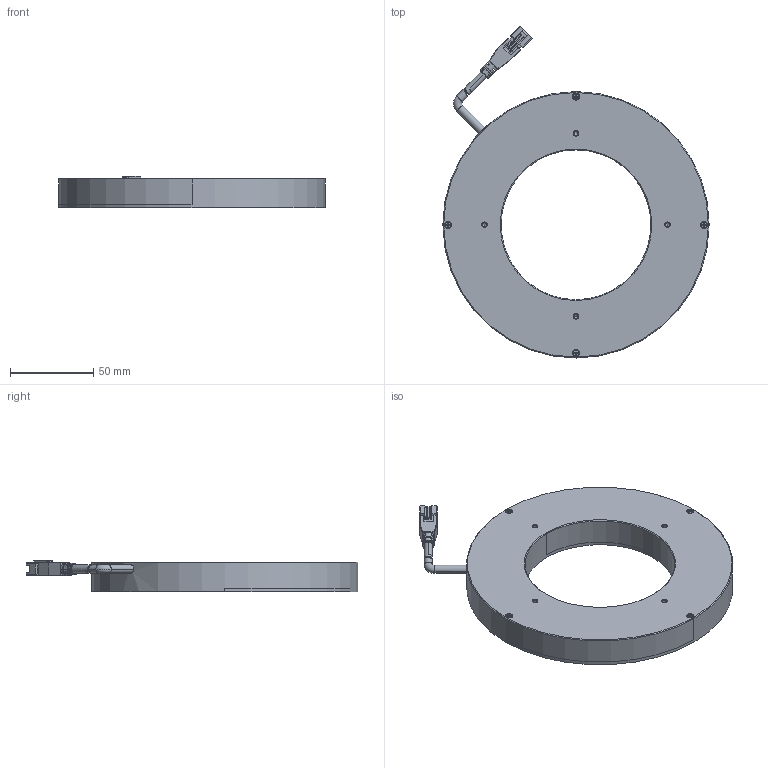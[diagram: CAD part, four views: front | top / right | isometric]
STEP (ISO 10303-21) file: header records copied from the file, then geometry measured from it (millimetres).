
FILE_DESCRIPTION((''),'2;1');
FILE_NAME('MV-LRDS-160-90-X_ASM','2023-09-15T15:03:53',('qiaoxuan5'),(''),'CREO PARAMETRIC BY PTC INC, 2020044','CREO PARAMETRIC BY PTC INC, 2020044','');
FILE_SCHEMA(('CONFIG_CONTROL_DESIGN'));
Length unit declared in the file: millimetre
Products named in the file (1): MV-LRDS-160-90-X_ASM
Bounding box: 160 x 199.44 x 19.2 mm (x, y, z)
Volume: 248551.3 mm3; surface area: 50198.4 mm2
Topology: 2 solids, 10 shells, 457 faces, 1127 edges, 690 vertices
Faces by surface type: plane 247, cylinder 126, cone 48, torus 18, sphere 8, bspline 8, extrusion 2
Entity records: 13950 total; most frequent: CARTESIAN_POINT 3110, DIRECTION 2277, ORIENTED_EDGE 2222, EDGE_CURVE 1111, AXIS2_PLACEMENT_3D 794, VERTEX_POINT 690, VECTOR 689, LINE 687
